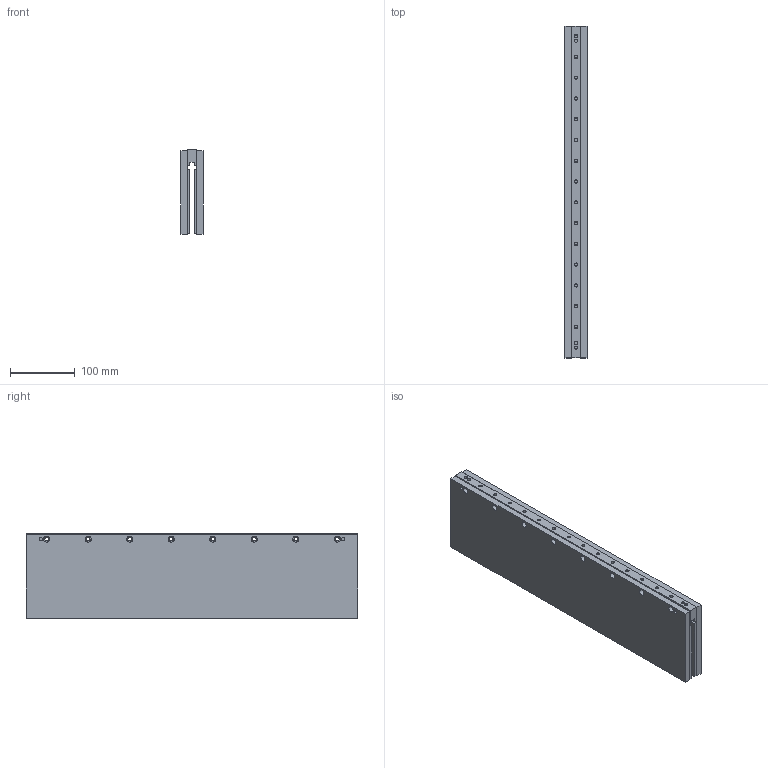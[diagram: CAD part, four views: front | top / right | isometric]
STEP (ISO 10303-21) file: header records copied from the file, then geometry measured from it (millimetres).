
FILE_DESCRIPTION((''),'2;1');
FILE_NAME('MW100-0512','2007-01-14T',('saurabh.singhal'),(''),'PRO/ENGINEER BY PARAMETRIC TECHNOLOGY CORPORATION, 2005450','PRO/ENGINEER BY PARAMETRIC TECHNOLOGY CORPORATION, 2005450','');
FILE_SCHEMA(('CONFIG_CONTROL_DESIGN'));
Length unit declared in the file: millimetre
Products named in the file (1): MW100-0512
Bounding box: 34 x 511.3 x 130.2 mm (x, y, z)
Volume: 1839435.4 mm3; surface area: 308286 mm2
Topology: 1 solids, 17 shells, 220 faces, 512 edges, 352 vertices
Faces by surface type: cylinder 124, plane 96
Entity records: 6483 total; most frequent: DIRECTION 1234, CARTESIAN_POINT 1085, ORIENTED_EDGE 960, EDGE_CURVE 512, AXIS2_PLACEMENT_3D 501, VERTEX_POINT 352, EDGE_LOOP 294, CIRCLE 280
